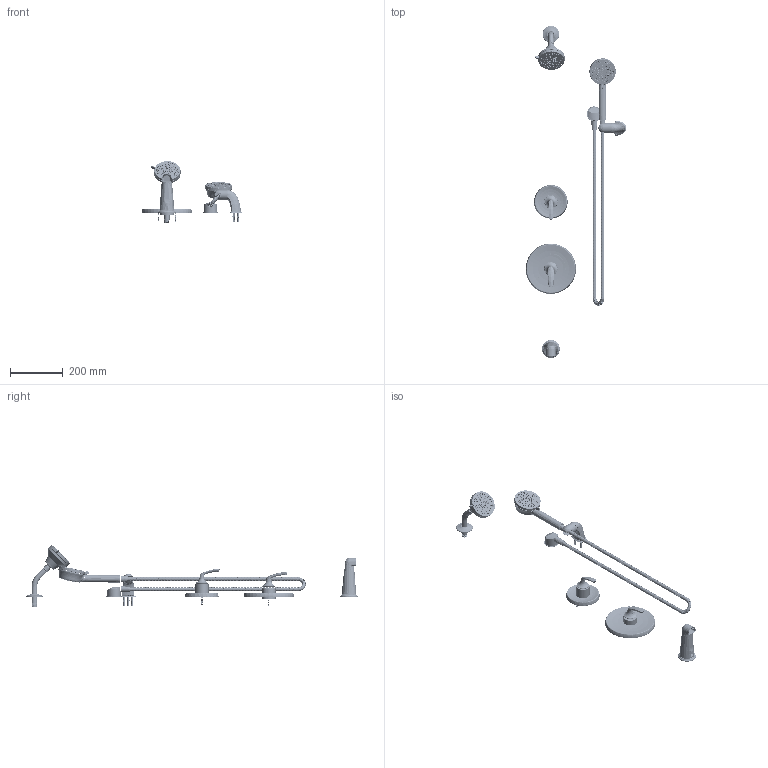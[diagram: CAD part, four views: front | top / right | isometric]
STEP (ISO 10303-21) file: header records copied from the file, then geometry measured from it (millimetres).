
FILE_DESCRIPTION (( 'STEP AP203' ), '1' );
FILE_NAME ('5596.STEP', '2025-01-16T21:56:19', ( '' ), ( '' ), 'SwSTEP 2.0', 'SolidWorks 2023', '' );
FILE_SCHEMA (( 'CONFIG_CONTROL_DESIGN' ));
Products named in the file (1): 5596
Bounding box: 381.69 x 1259.09 x 234.13 mm (x, y, z)
Surface area: 485105.7 mm2 (no closed solid volume)
Topology: 0 solids, 385 shells, 2224 faces, 8566 edges, 6521 vertices
Faces by surface type: cylinder 676, plane 533, bspline 517, cone 359, torus 99, sphere 40
Entity records: 537425 total; most frequent: CARTESIAN_POINT 475503, ORIENTED_EDGE 12127, DIRECTION 9986, EDGE_CURVE 8555, VERTEX_POINT 6518, B_SPLINE_CURVE_WITH_KNOTS 3855, AXIS2_PLACEMENT_3D 3755, EDGE_LOOP 2783
